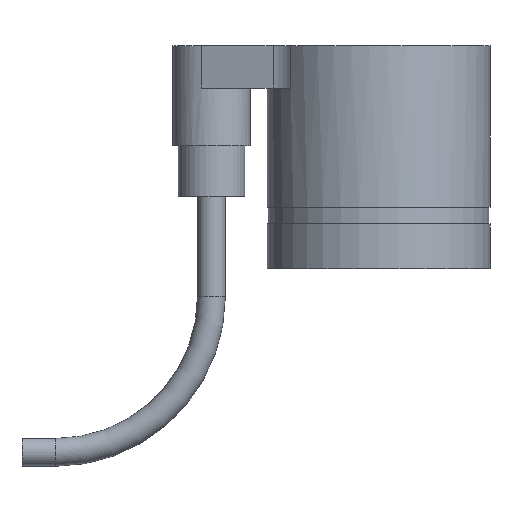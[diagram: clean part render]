
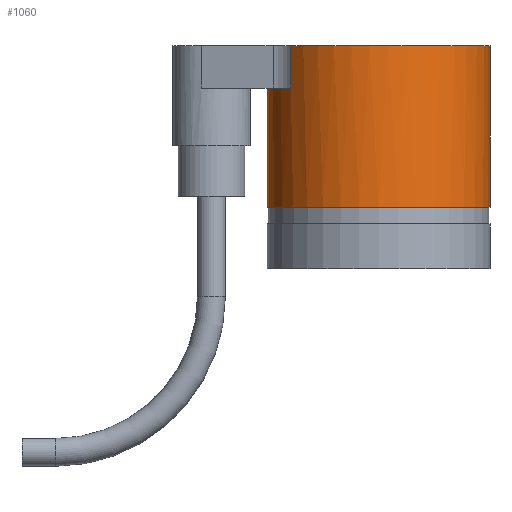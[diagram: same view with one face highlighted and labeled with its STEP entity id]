
A CAD part, front view. The second image highlights one B-rep face of the part: STEP entity #1060.
In plain terms, the highlighted cylindrical face has radius 10 mm (diameter 20 mm), a partial arc.
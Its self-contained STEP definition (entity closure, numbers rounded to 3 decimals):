
#13 = DIRECTION ( 'NONE',  ( 0., 0., 1. ) ) ;
#25 = CIRCLE ( 'NONE', #865, 10. ) ;
#105 = CARTESIAN_POINT ( 'NONE',  ( 0., 0., -14.5 ) ) ;
#139 = ORIENTED_EDGE ( 'NONE', *, *, #1296, .F. ) ;
#151 = VECTOR ( 'NONE', #13, 1000. ) ;
#158 = EDGE_CURVE ( 'NONE', #1365, #1368, #507, .T. ) ;
#244 = DIRECTION ( 'NONE',  ( 1., 0., 0. ) ) ;
#249 = CARTESIAN_POINT ( 'NONE',  ( 0., 0., 0. ) ) ;
#294 = FACE_OUTER_BOUND ( 'NONE', #1651, .T. ) ;
#318 = VERTEX_POINT ( 'NONE', #856 ) ;
#319 = AXIS2_PLACEMENT_3D ( 'NONE', #588, #1458, #710 ) ;
#384 = ORIENTED_EDGE ( 'NONE', *, *, #1432, .T. ) ;
#388 = EDGE_CURVE ( 'NONE', #976, #1368, #787, .T. ) ;
#478 = LINE ( 'NONE', #708, #1431 ) ;
#504 = DIRECTION ( 'NONE',  ( 0., 0., 1. ) ) ;
#507 = LINE ( 'NONE', #1549, #151 ) ;
#528 = ORIENTED_EDGE ( 'NONE', *, *, #388, .T. ) ;
#545 = LINE ( 'NONE', #727, #1550 ) ;
#560 = EDGE_CURVE ( 'NONE', #318, #1409, #545, .T. ) ;
#582 = ORIENTED_EDGE ( 'NONE', *, *, #158, .F. ) ;
#588 = CARTESIAN_POINT ( 'NONE',  ( 0., 0., -3.8 ) ) ;
#708 = CARTESIAN_POINT ( 'NONE',  ( -7.88, -6.157, 0. ) ) ;
#710 = DIRECTION ( 'NONE',  ( -1., 0., 0. ) ) ;
#727 = CARTESIAN_POINT ( 'NONE',  ( 10., 0., 0. ) ) ;
#787 = CIRCLE ( 'NONE', #319, 10. ) ;
#856 = CARTESIAN_POINT ( 'NONE',  ( 10., 0., -14.5 ) ) ;
#865 = AXIS2_PLACEMENT_3D ( 'NONE', #105, #999, #244 ) ;
#867 = CARTESIAN_POINT ( 'NONE',  ( -7.88, -6.157, -3.8 ) ) ;
#949 = ORIENTED_EDGE ( 'NONE', *, *, #560, .T. ) ;
#976 = VERTEX_POINT ( 'NONE', #867 ) ;
#999 = DIRECTION ( 'NONE',  ( 0., 0., 1. ) ) ;
#1022 = EDGE_CURVE ( 'NONE', #1365, #318, #25, .T. ) ;
#1060 = ADVANCED_FACE ( 'NONE', ( #294 ), #1279, .T. ) ;
#1139 = DIRECTION ( 'NONE',  ( 1., 0., 0. ) ) ;
#1193 = AXIS2_PLACEMENT_3D ( 'NONE', #249, #1380, #1139 ) ;
#1209 = CARTESIAN_POINT ( 'NONE',  ( -10., 0., -14.5 ) ) ;
#1220 = DIRECTION ( 'NONE',  ( 0., 0., -1. ) ) ;
#1252 = AXIS2_PLACEMENT_3D ( 'NONE', #1264, #504, #1385 ) ;
#1264 = CARTESIAN_POINT ( 'NONE',  ( 0., 0., 0. ) ) ;
#1279 = CYLINDRICAL_SURFACE ( 'NONE', #1193, 10. ) ;
#1294 = CIRCLE ( 'NONE', #1252, 10. ) ;
#1296 = EDGE_CURVE ( 'NONE', #1352, #1409, #1294, .T. ) ;
#1314 = CARTESIAN_POINT ( 'NONE',  ( -7.88, -6.157, 0. ) ) ;
#1335 = DIRECTION ( 'NONE',  ( 0., 0., 1. ) ) ;
#1352 = VERTEX_POINT ( 'NONE', #1314 ) ;
#1365 = VERTEX_POINT ( 'NONE', #1209 ) ;
#1368 = VERTEX_POINT ( 'NONE', #1447 ) ;
#1380 = DIRECTION ( 'NONE',  ( 0., 0., 1. ) ) ;
#1385 = DIRECTION ( 'NONE',  ( 1., 0., 0. ) ) ;
#1409 = VERTEX_POINT ( 'NONE', #1586 ) ;
#1431 = VECTOR ( 'NONE', #1220, 1000. ) ;
#1432 = EDGE_CURVE ( 'NONE', #1352, #976, #478, .T. ) ;
#1447 = CARTESIAN_POINT ( 'NONE',  ( -10., 0., -3.8 ) ) ;
#1458 = DIRECTION ( 'NONE',  ( 0., 0., -1. ) ) ;
#1531 = ORIENTED_EDGE ( 'NONE', *, *, #1022, .T. ) ;
#1549 = CARTESIAN_POINT ( 'NONE',  ( -10., 0., 0. ) ) ;
#1550 = VECTOR ( 'NONE', #1335, 1000. ) ;
#1586 = CARTESIAN_POINT ( 'NONE',  ( 10., 0., 0. ) ) ;
#1651 = EDGE_LOOP ( 'NONE', ( #582, #1531, #949, #139, #384, #528 ) ) ;
